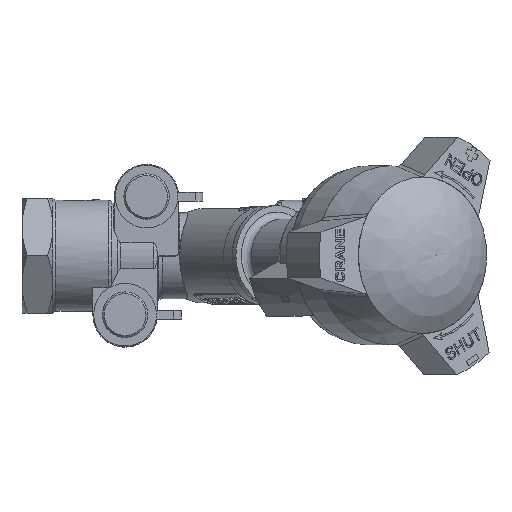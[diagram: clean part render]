
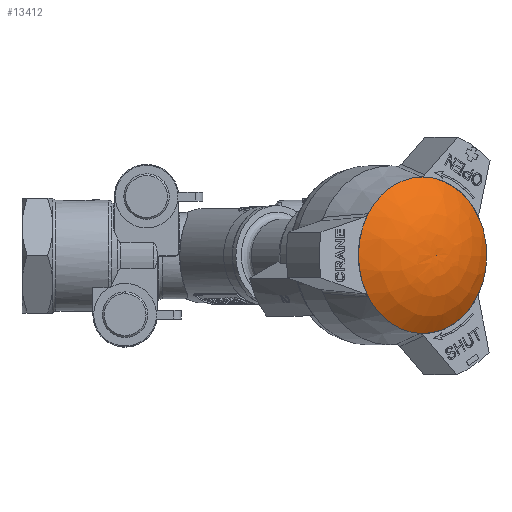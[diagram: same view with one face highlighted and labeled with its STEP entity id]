
A CAD part, top view. The second image highlights one B-rep face of the part: STEP entity #13412.
In plain terms, the highlighted free-form (B-spline) face has degree [2, 2] with [5, 9] control points.
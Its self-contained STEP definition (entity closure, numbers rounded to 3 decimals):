
#13323=CARTESIAN_POINT('',(16.012,21.882,85.8));
#13324=VERTEX_POINT('',#13323);
#13325=CARTESIAN_POINT('',(15.919,0.,85.865));
#13326=DIRECTION('',(0.574,0.,0.819));
#13327=DIRECTION('',(0.004,1.,-0.003));
#13328=AXIS2_PLACEMENT_3D('',#13325,#13326,#13327);
#13329=CIRCLE('',#13328,21.883);
#13330=EDGE_CURVE('',#13324,#13324,#13329,.T.);
#13356=CARTESIAN_POINT('',(30.801,-0.169,50.343));
#13357=CARTESIAN_POINT('',(37.077,-0.163,61.131));
#13358=CARTESIAN_POINT('',(33.876,-0.114,73.195));
#13359=CARTESIAN_POINT('',(30.675,-0.064,85.259));
#13360=CARTESIAN_POINT('',(19.877,0.,91.518));
#13361=CARTESIAN_POINT('',(30.662,-32.734,50.44));
#13362=CARTESIAN_POINT('',(36.943,-31.681,61.225));
#13363=CARTESIAN_POINT('',(33.783,-22.091,73.261));
#13364=CARTESIAN_POINT('',(30.623,-12.5,85.296));
#13365=CARTESIAN_POINT('',(19.877,0.,91.518));
#13366=CARTESIAN_POINT('',(3.987,-32.565,69.118));
#13367=CARTESIAN_POINT('',(11.125,-31.518,79.303));
#13368=CARTESIAN_POINT('',(15.781,-21.977,85.866));
#13369=CARTESIAN_POINT('',(20.436,-12.435,92.429));
#13370=CARTESIAN_POINT('',(19.877,0.,91.518));
#13371=CARTESIAN_POINT('',(-22.689,-32.396,87.797));
#13372=CARTESIAN_POINT('',(-14.693,-31.355,97.381));
#13373=CARTESIAN_POINT('',(-2.222,-21.863,98.471));
#13374=CARTESIAN_POINT('',(10.25,-12.371,99.561));
#13375=CARTESIAN_POINT('',(19.877,0.,91.518));
#13376=CARTESIAN_POINT('',(-22.551,0.169,87.7));
#13377=CARTESIAN_POINT('',(-14.559,0.163,97.287));
#13378=CARTESIAN_POINT('',(-2.128,0.114,98.406));
#13379=CARTESIAN_POINT('',(10.303,0.064,99.524));
#13380=CARTESIAN_POINT('',(19.877,0.,91.518));
#13381=CARTESIAN_POINT('',(-22.413,32.734,87.603));
#13382=CARTESIAN_POINT('',(-14.426,31.681,97.194));
#13383=CARTESIAN_POINT('',(-2.035,22.091,98.341));
#13384=CARTESIAN_POINT('',(10.355,12.5,99.487));
#13385=CARTESIAN_POINT('',(19.877,0.,91.518));
#13386=CARTESIAN_POINT('',(4.263,32.565,68.925));
#13387=CARTESIAN_POINT('',(11.392,31.518,79.116));
#13388=CARTESIAN_POINT('',(15.967,21.977,85.735));
#13389=CARTESIAN_POINT('',(20.542,12.435,92.355));
#13390=CARTESIAN_POINT('',(19.877,0.,91.518));
#13391=CARTESIAN_POINT('',(30.939,32.396,50.246));
#13392=CARTESIAN_POINT('',(37.21,31.355,61.038));
#13393=CARTESIAN_POINT('',(33.969,21.863,73.13));
#13394=CARTESIAN_POINT('',(30.728,12.371,85.222));
#13395=CARTESIAN_POINT('',(19.877,0.,91.518));
#13396=CARTESIAN_POINT('',(30.801,-0.169,50.343));
#13397=CARTESIAN_POINT('',(37.077,-0.163,61.131));
#13398=CARTESIAN_POINT('',(33.876,-0.114,73.195));
#13399=CARTESIAN_POINT('',(30.675,-0.064,85.259));
#13400=CARTESIAN_POINT('',(19.877,0.,91.518));
#13408=(BOUNDED_SURFACE()B_SPLINE_SURFACE(2,2,((#13356,#13361,#13366,#13371,#13376,#13381,#13386,#13391,#13396),(#13357,#13362,#13367,#13372,#13377,#13382,#13387,#13392,#13397),(#13358,#13363,#13368,#13373,#13378,#13383,#13388,#13393,#13398),(#13359,#13364,#13369,#13374,#13379,#13384,#13389,#13394,#13399),(#13360,#13365,#13370,#13375,#13380,#13385,#13390,#13395,#13400)),.UNSPECIFIED.,.F.,.T.,.U.)B_SPLINE_SURFACE_WITH_KNOTS((3,2,3),(3,2,2,2,3),(0.084,0.87,1.656),(0.0,1.571,3.142,4.712,6.283),.UNSPECIFIED.)GEOMETRIC_REPRESENTATION_ITEM()RATIONAL_B_SPLINE_SURFACE(((1.0,0.707,1.0,0.707,1.0,0.707,1.0,0.707,1.0),(0.924,0.653,0.924,0.653,0.924,0.653,0.924,0.653,0.924),(1.0,0.707,1.0,0.707,1.0,0.707,1.0,0.707,1.0),(0.924,0.653,0.924,0.653,0.924,0.653,0.924,0.653,0.924),(1.0,0.707,1.0,0.707,1.0,0.707,1.0,0.707,1.0)))REPRESENTATION_ITEM('')SURFACE());
#13409=ORIENTED_EDGE('',*,*,#13330,.T.);
#13410=EDGE_LOOP('',(#13409));
#13411=FACE_OUTER_BOUND('',#13410,.T.);
#13412=ADVANCED_FACE('',(#13411),#13408,.T.);
